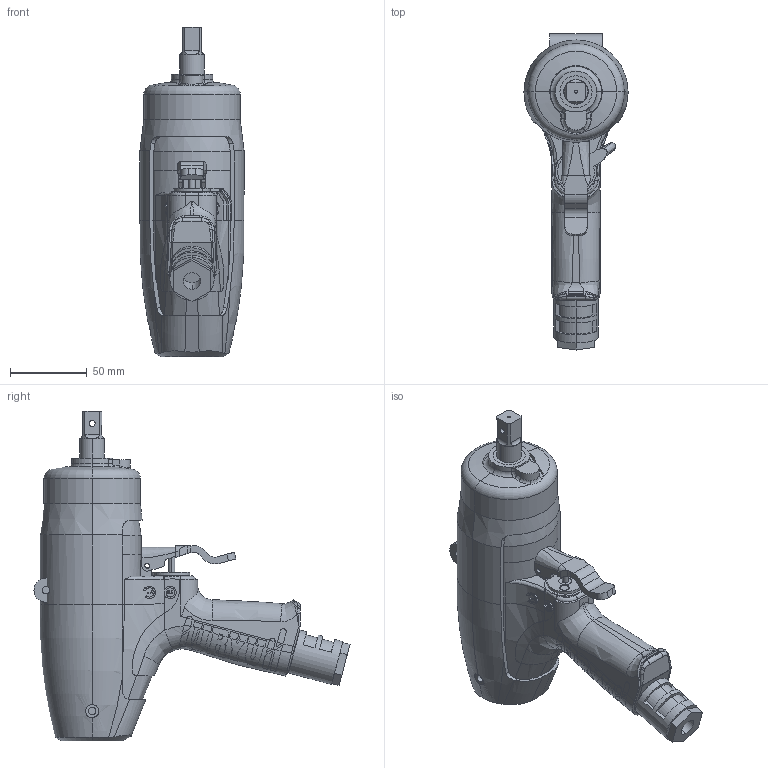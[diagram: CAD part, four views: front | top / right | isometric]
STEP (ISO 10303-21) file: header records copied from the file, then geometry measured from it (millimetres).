
FILE_DESCRIPTION (( 'STEP AP203' ), '1' );
FILE_NAME ('UAT130.STEP', '2015-07-23T02:03:34', ( '' ), ( '' ), 'SwSTEP 2.0', 'SolidWorks 2014', '' );
FILE_SCHEMA (( 'CONFIG_CONTROL_DESIGN' ));
Length unit declared in the file: millimetre
Products named in the file (9): 1300252_UAT130; 1302122_ULT130; 1301072_ULT130; 1308422_UAT130; 1308402_ULT130; 1301042_ULT130; UAT130; 1303192_ULT130; 1304392_ULT130
Assembly tree (8 placements, depth 2):
  UAT130
    1303192_ULT130
    1304392_ULT130
    1300252_UAT130
    1302122_ULT130
    1301072_ULT130
    1308422_UAT130
    1308402_ULT130
    1301042_ULT130
Bounding box: 68 x 206.55 x 215.5 mm (x, y, z)
Volume: 744025.8 mm3; surface area: 156411.9 mm2
Topology: 8 solids, 8 shells, 1270 faces, 3494 edges, 2271 vertices
Faces by surface type: plane 729, cylinder 253, bspline 227, torus 35, cone 24, sphere 2
Entity records: 60291 total; most frequent: CARTESIAN_POINT 30357, ORIENTED_EDGE 6980, DIRECTION 4668, EDGE_CURVE 3490, VERTEX_POINT 2271, AXIS2_PLACEMENT_3D 1586, LINE 1496, VECTOR 1496
